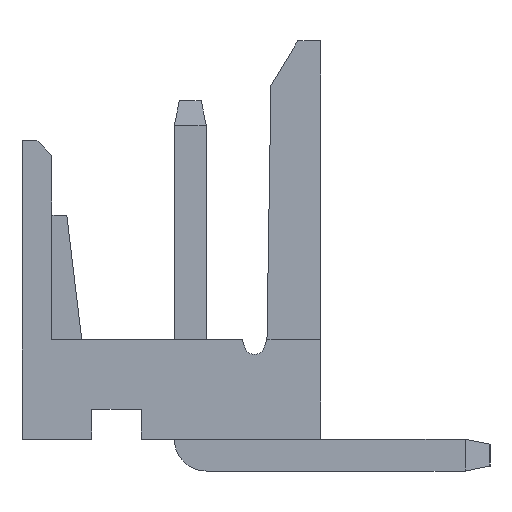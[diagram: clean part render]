
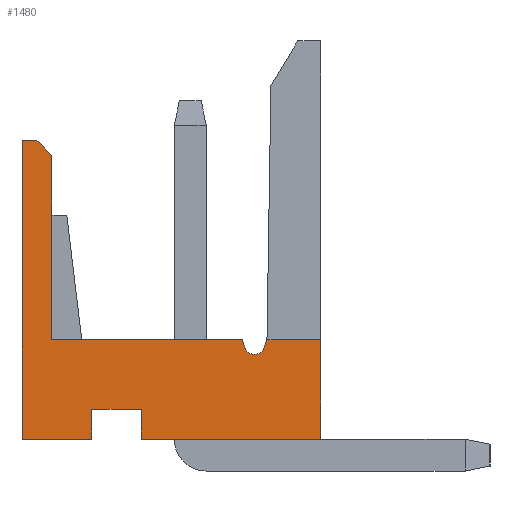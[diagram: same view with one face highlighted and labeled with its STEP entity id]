
A CAD part, left-side view. The second image highlights one B-rep face of the part: STEP entity #1480.
In plain terms, the highlighted planar face has unit normal (-1, 0, 0).
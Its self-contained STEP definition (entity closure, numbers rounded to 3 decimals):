
#252=CARTESIAN_POINT('Vertex',(-13.75,1.58,2.)) ;
#380=CARTESIAN_POINT('Vertex',(-13.75,5.4,2.)) ;
#383=CARTESIAN_POINT('Line Origine',(-13.75,3.49,2.)) ;
#772=CARTESIAN_POINT('Line Origine',(-13.75,1.549,1.915)) ;
#776=CARTESIAN_POINT('Vertex',(-13.75,1.518,1.831)) ;
#1143=CARTESIAN_POINT('Vertex',(-13.75,6.,0.)) ;
#1146=CARTESIAN_POINT('Line Origine',(-13.75,6.,3.)) ;
#1150=CARTESIAN_POINT('Vertex',(-13.75,6.,6.)) ;
#1271=CARTESIAN_POINT('Vertex',(-13.75,5.4,5.7)) ;
#1274=CARTESIAN_POINT('Line Origine',(-13.75,5.4,5.1)) ;
#1278=CARTESIAN_POINT('Vertex',(-13.75,5.4,4.5)) ;
#1281=CARTESIAN_POINT('Line Origine',(-13.75,5.4,3.25)) ;
#1384=CARTESIAN_POINT('Axis2P3D Location',(-13.75,0.,0.)) ;
#1389=CARTESIAN_POINT('Line Origine',(-13.75,5.55,5.85)) ;
#1393=CARTESIAN_POINT('Vertex',(-13.75,5.7,6.)) ;
#1396=CARTESIAN_POINT('Line Origine',(-13.75,5.85,6.)) ;
#1401=CARTESIAN_POINT('Line Origine',(-13.75,5.3,0.)) ;
#1405=CARTESIAN_POINT('Vertex',(-13.75,4.6,0.)) ;
#1408=CARTESIAN_POINT('Line Origine',(-13.75,4.6,0.3)) ;
#1412=CARTESIAN_POINT('Vertex',(-13.75,4.6,0.6)) ;
#1415=CARTESIAN_POINT('Line Origine',(-13.75,4.1,0.6)) ;
#1419=CARTESIAN_POINT('Vertex',(-13.75,3.6,0.6)) ;
#1422=CARTESIAN_POINT('Line Origine',(-13.75,3.6,0.3)) ;
#1426=CARTESIAN_POINT('Vertex',(-13.75,3.6,0.)) ;
#1429=CARTESIAN_POINT('Line Origine',(-13.75,1.8,0.)) ;
#1433=CARTESIAN_POINT('Vertex',(-13.75,0.,0.)) ;
#1436=CARTESIAN_POINT('Line Origine',(-13.75,0.,1.)) ;
#1440=CARTESIAN_POINT('Vertex',(-13.75,0.,2.)) ;
#1443=CARTESIAN_POINT('Line Origine',(-13.75,0.54,2.)) ;
#1447=CARTESIAN_POINT('Vertex',(-13.75,1.08,2.)) ;
#1450=CARTESIAN_POINT('Line Origine',(-13.75,1.111,1.915)) ;
#1454=CARTESIAN_POINT('Vertex',(-13.75,1.142,1.831)) ;
#1457=CARTESIAN_POINT('Axis2P3D Location',(-13.75,1.33,1.9)) ;
#384=DIRECTION('Vector Direction',(0.,-1.,0.)) ;
#773=DIRECTION('Vector Direction',(0.,-0.346,-0.938)) ;
#1147=DIRECTION('Vector Direction',(0.,0.,1.)) ;
#1275=DIRECTION('Vector Direction',(0.,0.,-1.)) ;
#1282=DIRECTION('Vector Direction',(0.,0.,1.)) ;
#1385=DIRECTION('Axis2P3D Direction',(1.,0.,0.)) ;
#1386=DIRECTION('Axis2P3D XDirection',(0.,1.,0.)) ;
#1390=DIRECTION('Vector Direction',(0.,-0.707,-0.707)) ;
#1397=DIRECTION('Vector Direction',(0.,-1.,0.)) ;
#1402=DIRECTION('Vector Direction',(0.,1.,0.)) ;
#1409=DIRECTION('Vector Direction',(0.,0.,-1.)) ;
#1416=DIRECTION('Vector Direction',(0.,1.,0.)) ;
#1423=DIRECTION('Vector Direction',(0.,0.,1.)) ;
#1430=DIRECTION('Vector Direction',(0.,1.,0.)) ;
#1437=DIRECTION('Vector Direction',(0.,0.,-1.)) ;
#1444=DIRECTION('Vector Direction',(0.,1.,0.)) ;
#1451=DIRECTION('Vector Direction',(0.,-0.346,0.938)) ;
#1458=DIRECTION('Axis2P3D Direction',(1.,0.,0.)) ;
#1387=AXIS2_PLACEMENT_3D('Plane Axis2P3D',#1384,#1385,#1386) ;
#1459=AXIS2_PLACEMENT_3D('Circle Axis2P3D',#1457,#1458,$) ;
#1463=ORIENTED_EDGE('',*,*,#1285,.T.) ;
#1464=ORIENTED_EDGE('',*,*,#1280,.F.) ;
#1465=ORIENTED_EDGE('',*,*,#1395,.F.) ;
#1466=ORIENTED_EDGE('',*,*,#1400,.F.) ;
#1467=ORIENTED_EDGE('',*,*,#1152,.F.) ;
#1468=ORIENTED_EDGE('',*,*,#1407,.F.) ;
#1469=ORIENTED_EDGE('',*,*,#1414,.F.) ;
#1470=ORIENTED_EDGE('',*,*,#1421,.F.) ;
#1471=ORIENTED_EDGE('',*,*,#1428,.F.) ;
#1472=ORIENTED_EDGE('',*,*,#1435,.F.) ;
#1473=ORIENTED_EDGE('',*,*,#1442,.F.) ;
#1474=ORIENTED_EDGE('',*,*,#1449,.F.) ;
#1475=ORIENTED_EDGE('',*,*,#1456,.F.) ;
#1476=ORIENTED_EDGE('',*,*,#1461,.F.) ;
#1477=ORIENTED_EDGE('',*,*,#778,.F.) ;
#1478=ORIENTED_EDGE('',*,*,#387,.F.) ;
#385=VECTOR('Line Direction',#384,1.) ;
#774=VECTOR('Line Direction',#773,1.) ;
#1148=VECTOR('Line Direction',#1147,1.) ;
#1276=VECTOR('Line Direction',#1275,1.) ;
#1283=VECTOR('Line Direction',#1282,1.) ;
#1391=VECTOR('Line Direction',#1390,1.) ;
#1398=VECTOR('Line Direction',#1397,1.) ;
#1403=VECTOR('Line Direction',#1402,1.) ;
#1410=VECTOR('Line Direction',#1409,1.) ;
#1417=VECTOR('Line Direction',#1416,1.) ;
#1424=VECTOR('Line Direction',#1423,1.) ;
#1431=VECTOR('Line Direction',#1430,1.) ;
#1438=VECTOR('Line Direction',#1437,1.) ;
#1445=VECTOR('Line Direction',#1444,1.) ;
#1452=VECTOR('Line Direction',#1451,1.) ;
#1480=ADVANCED_FACE('\X2\96F64EF651E04F554F53\X0\',(#1479),#1388,.F.) ;
#1460=CIRCLE('generated circle',#1459,0.2) ;
#387=EDGE_CURVE('',#381,#253,#386,.T.) ;
#778=EDGE_CURVE('',#253,#777,#775,.T.) ;
#1152=EDGE_CURVE('',#1144,#1151,#1149,.T.) ;
#1280=EDGE_CURVE('',#1272,#1279,#1277,.T.) ;
#1285=EDGE_CURVE('',#381,#1279,#1284,.T.) ;
#1395=EDGE_CURVE('',#1394,#1272,#1392,.T.) ;
#1400=EDGE_CURVE('',#1151,#1394,#1399,.T.) ;
#1407=EDGE_CURVE('',#1406,#1144,#1404,.T.) ;
#1414=EDGE_CURVE('',#1413,#1406,#1411,.T.) ;
#1421=EDGE_CURVE('',#1420,#1413,#1418,.T.) ;
#1428=EDGE_CURVE('',#1427,#1420,#1425,.T.) ;
#1435=EDGE_CURVE('',#1434,#1427,#1432,.T.) ;
#1442=EDGE_CURVE('',#1441,#1434,#1439,.T.) ;
#1449=EDGE_CURVE('',#1448,#1441,#1446,.F.) ;
#1456=EDGE_CURVE('',#1455,#1448,#1453,.T.) ;
#1461=EDGE_CURVE('',#777,#1455,#1460,.F.) ;
#1462=EDGE_LOOP('',(#1463,#1464,#1465,#1466,#1467,#1468,#1469,#1470,#1471,#1472,#1473,#1474,#1475,#1476,#1477,#1478)) ;
#1479=FACE_OUTER_BOUND('',#1462,.T.) ;
#386=LINE('Line',#383,#385) ;
#775=LINE('Line',#772,#774) ;
#1149=LINE('Line',#1146,#1148) ;
#1277=LINE('Line',#1274,#1276) ;
#1284=LINE('Line',#1281,#1283) ;
#1392=LINE('Line',#1389,#1391) ;
#1399=LINE('Line',#1396,#1398) ;
#1404=LINE('Line',#1401,#1403) ;
#1411=LINE('Line',#1408,#1410) ;
#1418=LINE('Line',#1415,#1417) ;
#1425=LINE('Line',#1422,#1424) ;
#1432=LINE('Line',#1429,#1431) ;
#1439=LINE('Line',#1436,#1438) ;
#1446=LINE('Line',#1443,#1445) ;
#1453=LINE('Line',#1450,#1452) ;
#1388=PLANE('Plane',#1387) ;
#253=VERTEX_POINT('',#252) ;
#381=VERTEX_POINT('',#380) ;
#777=VERTEX_POINT('',#776) ;
#1144=VERTEX_POINT('',#1143) ;
#1151=VERTEX_POINT('',#1150) ;
#1272=VERTEX_POINT('',#1271) ;
#1279=VERTEX_POINT('',#1278) ;
#1394=VERTEX_POINT('',#1393) ;
#1406=VERTEX_POINT('',#1405) ;
#1413=VERTEX_POINT('',#1412) ;
#1420=VERTEX_POINT('',#1419) ;
#1427=VERTEX_POINT('',#1426) ;
#1434=VERTEX_POINT('',#1433) ;
#1441=VERTEX_POINT('',#1440) ;
#1448=VERTEX_POINT('',#1447) ;
#1455=VERTEX_POINT('',#1454) ;
